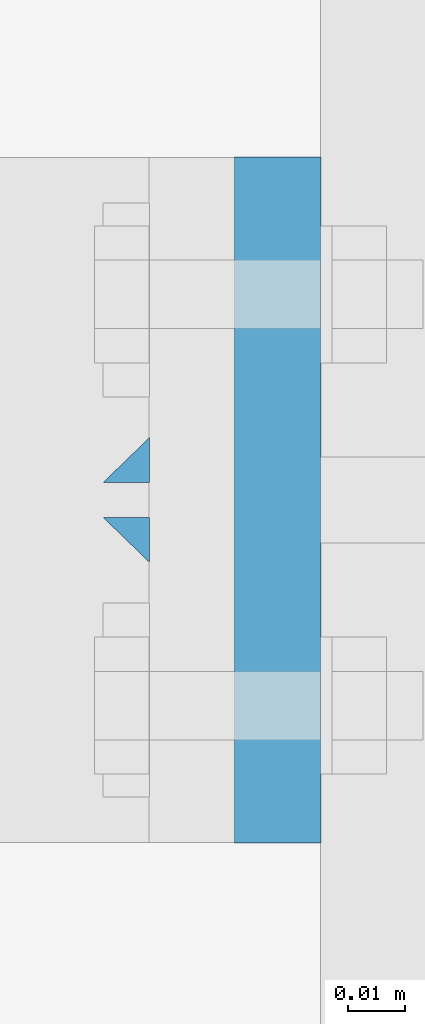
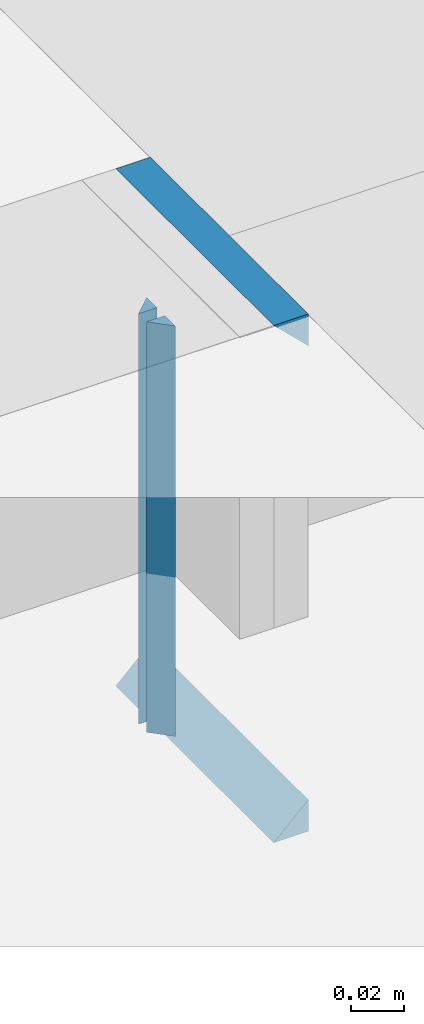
# One storey, part 23 of 66: 6 fasteners.
"""IFC4 building model written with IfcOpenShell, lengths in metres."""

from ifc_helpers import new_model, si_unit, frame, origin_with_axes, place, context, project, spatial, polyline, outline, extrude, type_object, element, save


model = new_model("IFC4")

# Units and contexts
model_context = context("Model", 3, precision=1e-05, world=origin_with_axes())
ifc_project = project(units=[si_unit("LENGTHUNIT", "METRE"), si_unit("AREAUNIT", "SQUARE_METRE"), si_unit("VOLUMEUNIT", "CUBIC_METRE"), si_unit("MASSUNIT", "GRAM", prefix="KILO"), si_unit("TIMEUNIT", "SECOND"), si_unit("PLANEANGLEUNIT", "RADIAN"), si_unit("SOLIDANGLEUNIT", "STERADIAN"), si_unit("THERMODYNAMICTEMPERATUREUNIT", "DEGREE_CELSIUS")], contexts=[model_context])

# Site, building, storey
placement_1 = place(None, origin_with_axes())
site = spatial("IfcSite", under=ifc_project, at=placement_1, Name="Italia", CompositionType="ELEMENT")
building = spatial("IfcBuilding", under=site, at=placement_1, Name="Uffici", CompositionType="ELEMENT")
storey_placement = place(None, frame((0.0, 0.0, 3.299999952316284), z_axis=(0.0, 0.0, 1.0), x_axis=(1.0, 0.0, 0.0)))
storey = spatial("IfcBuildingStorey", under=building, at=storey_placement, Name="Storey 1", CompositionType="ELEMENT", Elevation=3.299999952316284)

# Fasteners
fastener_type_1 = type_object("IfcFastenerType", Name="Collegamenti -005_-004 -015_-014 0115_0114", PredefinedType="WELD")
placement_2 = place(placement_1, origin_with_axes())
fastener_1_placement = place(placement_2, origin_with_axes())
element("IfcFastener", 1, at=fastener_1_placement, inside=storey, type_object=fastener_type_1, Name="Collegamenti -005_-004 -015_-014 0115_0114", context=model_context, shape_type="SweptSolid", body=[
    extrude(outline(polyline([(0.0, 0.0), (0.00792813, 0.00817299), (0.00792813, 0.0), (0.0, 0.0)])), frame((13.8201, 3.58236, 3.08475), z_axis=(0.0, 0.0, 1.0), x_axis=(0.0, 1.0, 0.0)), (0.0, 0.0, 1.0), 0.1905),
])
fastener_type_2 = type_object("IfcFastenerType", Name="Collegamenti -005_-004 -015_-014 0115_0114", PredefinedType="WELD")
fastener_2_placement = place(placement_2, origin_with_axes())
element("IfcFastener", 2, at=fastener_2_placement, inside=storey, type_object=fastener_type_2, Name="Collegamenti -005_-004 -015_-014 0115_0114", context=model_context, shape_type="SweptSolid", body=[
    extrude(outline(polyline([(0.0, 0.0), (-0.00792813, -0.00817299), (-0.00792813, 0.0), (0.0, 0.0)])), frame((13.8201, 3.60431, 3.27525), z_axis=(0.0, 0.0, -1.0), x_axis=(0.0, 1.0, 0.0)), (0.0, 0.0, 1.0), 0.1905),
])
fastener_type_3 = type_object("IfcFastenerType", Name="Collegamenti -005_-004 -015_-014 0115_0114", PredefinedType="WELD")
fastener_3_placement = place(placement_2, origin_with_axes())
element("IfcFastener", 3, at=fastener_3_placement, inside=storey, type_object=fastener_type_3, Name="Collegamenti -005_-004 -015_-014 0115_0114", context=model_context, shape_type="SweptSolid", body=[
    extrude(outline(polyline([(0.0, 0.0), (0.00792813, 0.00817299), (0.00792813, 0.0), (0.0, 0.0)])), frame((13.8201, 3.58236, 3.08475), z_axis=(0.0, 0.0, 1.0), x_axis=(0.0, 1.0, 0.0)), (0.0, 0.0, 1.0), 0.1905),
])
fastener_type_4 = type_object("IfcFastenerType", Name="Collegamenti -005_-004 -015_-014 0115_0114", PredefinedType="WELD")
fastener_4_placement = place(placement_2, origin_with_axes())
element("IfcFastener", 4, at=fastener_4_placement, inside=storey, type_object=fastener_type_4, Name="Collegamenti -005_-004 -015_-014 0115_0114", context=model_context, shape_type="SweptSolid", body=[
    extrude(outline(polyline([(0.0, 0.0), (-0.00792813, -0.00817299), (-0.00792813, 0.0), (0.0, 0.0)])), frame((13.8201, 3.60431, 3.27525), z_axis=(0.0, 0.0, -1.0), x_axis=(0.0, 1.0, 0.0)), (0.0, 0.0, 1.0), 0.1905),
])
fastener_type_5 = type_object("IfcFastenerType", Name="Collegamenti -005_-004 -015_-014 0115_0114", PredefinedType="WELD")
fastener_5_placement = place(placement_2, origin_with_axes())
element("IfcFastener", 5, at=fastener_5_placement, inside=storey, type_object=fastener_type_5, Name="Collegamenti -005_-004 -015_-014 0115_0114", context=model_context, shape_type="SweptSolid", body=[
    extrude(outline(polyline([(0.0, 0.0), (0.015173, -0.0147183), (0.0, -0.0147183), (0.0, 0.0)])), frame((13.8501, 3.53328, 3.07467), z_axis=(0.0, 1.0, 0.0), x_axis=(-1.0, 0.0, 0.0)), (0.0, 0.0, 1.0), 0.1201),
])
fastener_type_6 = type_object("IfcFastenerType", Name="Collegamenti -005_-004 -015_-014 0115_0114", PredefinedType="WELD")
fastener_6_placement = place(placement_2, origin_with_axes())
element("IfcFastener", 6, at=fastener_6_placement, inside=storey, type_object=fastener_type_6, Name="Collegamenti -005_-004 -015_-014 0115_0114", context=model_context, shape_type="SweptSolid", body=[
    extrude(outline(polyline([(0.0, 0.0), (-0.015173, 0.0147183), (0.0, 0.0147183), (0.0, 0.0)])), frame((13.8501, 3.65338, 3.28533), z_axis=(0.0, -1.0, 0.0), x_axis=(1.0, 0.0, 0.0)), (0.0, 0.0, 1.0), 0.1201),
])

save(model, "model.ifc")
